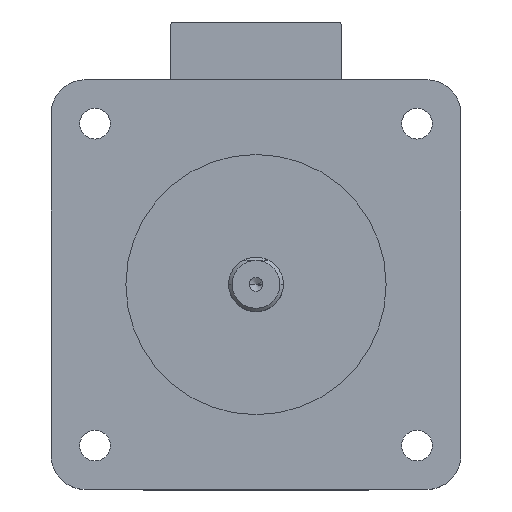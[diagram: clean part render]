
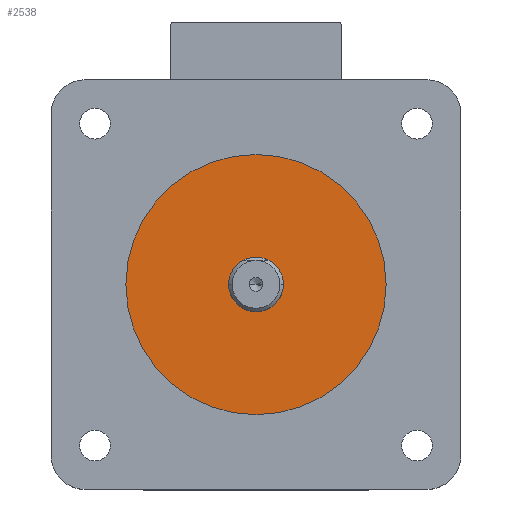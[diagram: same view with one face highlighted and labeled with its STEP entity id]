
A CAD part, top view. The second image highlights one B-rep face of the part: STEP entity #2538.
In plain terms, the highlighted planar face has unit normal (0, 0, 1).
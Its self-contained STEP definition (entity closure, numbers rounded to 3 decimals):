
#64 = AXIS2_PLACEMENT_3D ( 'NONE', #384, #3056, #802 ) ;
#180 = EDGE_CURVE ( 'NONE', #3591, #2222, #690, .T. ) ;
#225 = DIRECTION ( 'NONE',  ( 0., 0., -1. ) ) ;
#384 = CARTESIAN_POINT ( 'NONE',  ( 0., 0., 2.5 ) ) ;
#410 = AXIS2_PLACEMENT_3D ( 'NONE', #2468, #225, #2131 ) ;
#478 = CARTESIAN_POINT ( 'NONE',  ( 0., 0., 2.5 ) ) ;
#618 = AXIS2_PLACEMENT_3D ( 'NONE', #478, #2042, #2469 ) ;
#649 = EDGE_CURVE ( 'NONE', #1857, #1287, #3999, .T. ) ;
#690 = CIRCLE ( 'NONE', #618, 19.05 ) ;
#761 = EDGE_LOOP ( 'NONE', ( #4004, #3553 ) ) ;
#794 = DIRECTION ( 'NONE',  ( 1., 0., 0. ) ) ;
#802 = DIRECTION ( 'NONE',  ( 1., 0., 0. ) ) ;
#997 = DIRECTION ( 'NONE',  ( 0., 0., -1. ) ) ;
#1116 = EDGE_CURVE ( 'NONE', #1287, #1857, #3259, .T. ) ;
#1249 = FACE_OUTER_BOUND ( 'NONE', #761, .T. ) ;
#1287 = VERTEX_POINT ( 'NONE', #1814 ) ;
#1647 = DIRECTION ( 'NONE',  ( 1., 0., 0. ) ) ;
#1741 = CARTESIAN_POINT ( 'NONE',  ( -19.05, 0., 2.5 ) ) ;
#1745 = AXIS2_PLACEMENT_3D ( 'NONE', #3153, #997, #1647 ) ;
#1756 = CARTESIAN_POINT ( 'NONE',  ( 19.05, 0., 2.5 ) ) ;
#1814 = CARTESIAN_POINT ( 'NONE',  ( 4., 0., 2.5 ) ) ;
#1857 = VERTEX_POINT ( 'NONE', #2089 ) ;
#1996 = FACE_BOUND ( 'NONE', #3929, .T. ) ;
#2042 = DIRECTION ( 'NONE',  ( 0., 0., 1. ) ) ;
#2043 = EDGE_CURVE ( 'NONE', #2222, #3591, #3600, .T. ) ;
#2089 = CARTESIAN_POINT ( 'NONE',  ( -4., 0., 2.5 ) ) ;
#2131 = DIRECTION ( 'NONE',  ( 1., 0., 0. ) ) ;
#2222 = VERTEX_POINT ( 'NONE', #1756 ) ;
#2468 = CARTESIAN_POINT ( 'NONE',  ( 0., 0., 2.5 ) ) ;
#2469 = DIRECTION ( 'NONE',  ( 1., 0., 0. ) ) ;
#2480 = AXIS2_PLACEMENT_3D ( 'NONE', #2889, #3376, #794 ) ;
#2538 = ADVANCED_FACE ( 'NONE', ( #1249, #1996 ), #3616, .T. ) ;
#2717 = ORIENTED_EDGE ( 'NONE', *, *, #1116, .T. ) ;
#2889 = CARTESIAN_POINT ( 'NONE',  ( 0., 0., 2.5 ) ) ;
#3056 = DIRECTION ( 'NONE',  ( 0., 0., 1. ) ) ;
#3096 = ORIENTED_EDGE ( 'NONE', *, *, #649, .T. ) ;
#3153 = CARTESIAN_POINT ( 'NONE',  ( 0., 0., 2.5 ) ) ;
#3259 = CIRCLE ( 'NONE', #410, 4. ) ;
#3376 = DIRECTION ( 'NONE',  ( 0., 0., 1. ) ) ;
#3553 = ORIENTED_EDGE ( 'NONE', *, *, #2043, .T. ) ;
#3591 = VERTEX_POINT ( 'NONE', #1741 ) ;
#3600 = CIRCLE ( 'NONE', #64, 19.05 ) ;
#3616 = PLANE ( 'NONE',  #2480 ) ;
#3929 = EDGE_LOOP ( 'NONE', ( #3096, #2717 ) ) ;
#3999 = CIRCLE ( 'NONE', #1745, 4. ) ;
#4004 = ORIENTED_EDGE ( 'NONE', *, *, #180, .T. ) ;
